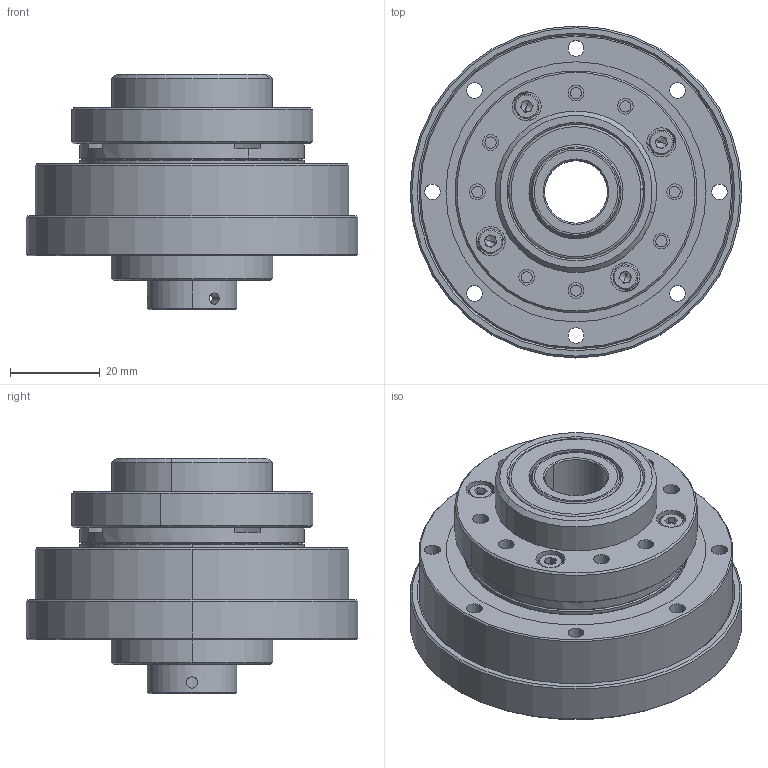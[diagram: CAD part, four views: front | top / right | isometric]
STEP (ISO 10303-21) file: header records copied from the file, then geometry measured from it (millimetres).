
FILE_DESCRIPTION (( 'STEP AP203' ), '1' );
FILE_NAME ('BHS-14-XXX-U-¢ó.STEP', '2019-01-15T03:40:25', ( 'User' ), ( 'China' ), 'SwSTEP 2.0', 'SolidWorks 2015', '' );
FILE_SCHEMA (( 'CONFIG_CONTROL_DESIGN' ));
Length unit declared in the file: millimetre
Products named in the file (1): BHS-14-XXX-U-ｋ
Bounding box: 74 x 74 x 52.5 mm (x, y, z)
Surface area: 26778 mm2 (no closed solid volume)
Topology: 0 solids, 17 shells, 241 faces, 702 edges, 452 vertices
Faces by surface type: cylinder 108, plane 69, cone 56, torus 8
Entity records: 8241 total; most frequent: CARTESIAN_POINT 1618, DIRECTION 1524, ORIENTED_EDGE 1148, EDGE_CURVE 690, AXIS2_PLACEMENT_3D 604, VERTEX_POINT 452, CIRCLE 362, VECTOR 316
